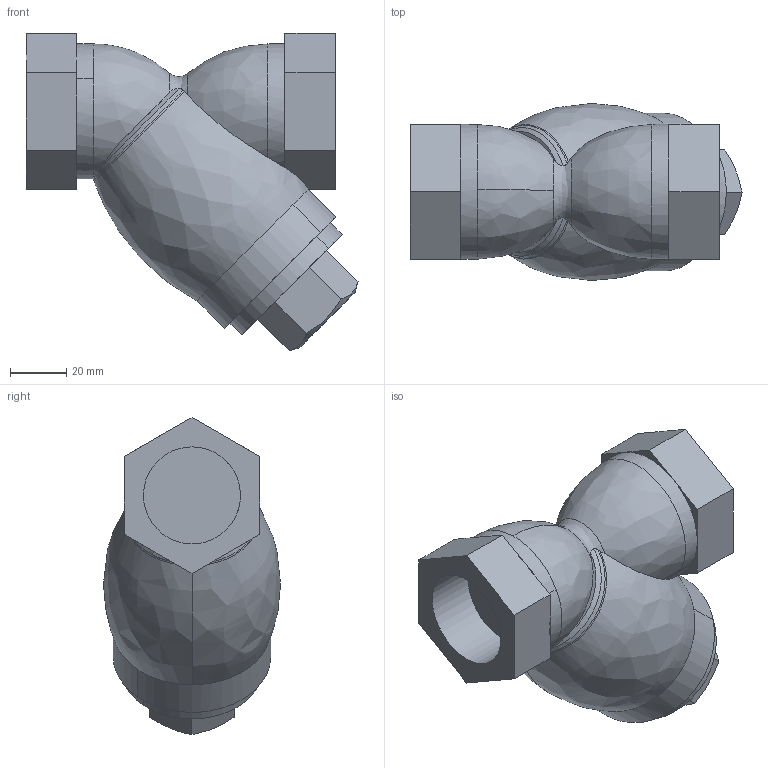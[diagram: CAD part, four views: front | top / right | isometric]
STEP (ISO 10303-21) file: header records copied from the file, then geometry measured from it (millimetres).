
FILE_DESCRIPTION((''),'2;1');
FILE_NAME('','2018-11-01T10:24:41',(''),(''),'','CADfix','');
FILE_SCHEMA(('AUTOMOTIVE_DESIGN { 1 0 10303 214 1 1 1 1 }'));
Length unit declared in the file: millimetre
Bounding box: 118 x 62.9 x 112.71 mm (x, y, z)
Volume: 325555.3 mm3; surface area: 37335.2 mm2
Topology: 1 solids, 1 shells, 65 faces, 197 edges, 138 vertices
Faces by surface type: bspline 65
Entity records: 3787 total; most frequent: CARTESIAN_POINT 2618, ORIENTED_EDGE 394, EDGE_CURVE 197, VERTEX_POINT 138, B_SPLINE_CURVE_WITH_KNOTS 107, QUASI_UNIFORM_CURVE 73, EDGE_LOOP 69, FACE_OUTER_BOUND 65
